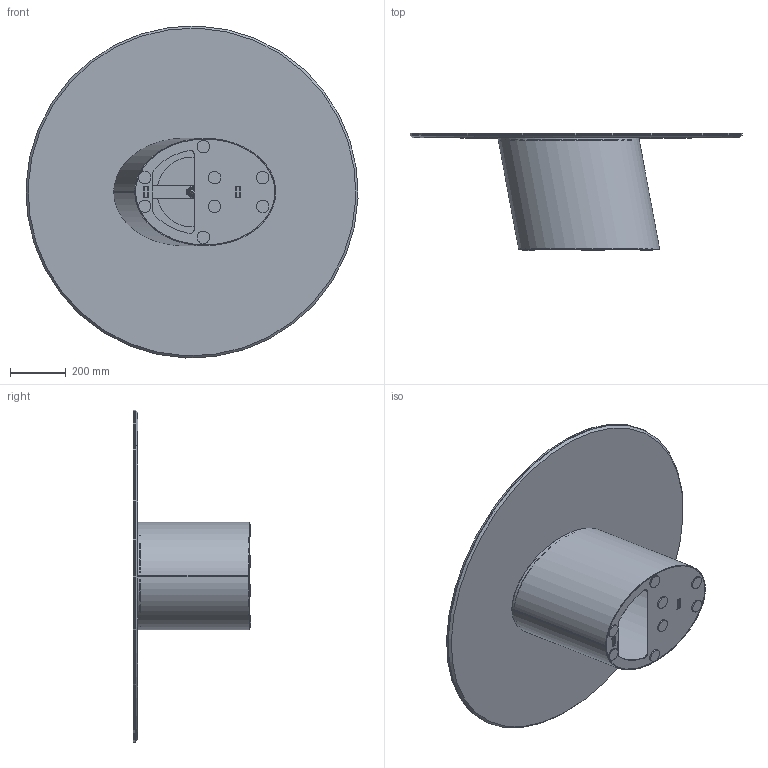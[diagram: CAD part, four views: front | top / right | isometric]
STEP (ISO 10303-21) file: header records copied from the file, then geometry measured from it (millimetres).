
FILE_DESCRIPTION (( 'STEP AP203' ), '1' );
FILE_NAME ('D214C.STEP', '2024-08-07T11:23:55', ( '' ), ( '' ), 'SwSTEP 2.0', 'SolidWorks 2022', '' );
FILE_SCHEMA (( 'CONFIG_CONTROL_DESIGN' ));
Length unit declared in the file: millimetre
Products named in the file (8): D214C; KXXCXX-00-Piani Rotondi in ceramica CON PIASTRA_K14P PIANO CERAMICA D.119cm CON M24; P0000003-00-STAFFA DI FISSAGGIO DIAMETRO 250_P0000003-250mm normale; K1XCMXX-00-Piani Rotondi in ceramica_D.1190; D2B000001-00-BASAMENTO DORADO LOW H420_Default<A macchina>; M8xXXmm_M8x16mm; P0000005-00-FILETTO M24 CON FORO H.20mm; Parte2^Dxxxx-00-DORADO LOW
Assembly tree (14 placements, depth 3):
  D214C
    D2B000001-00-BASAMENTO DORADO LOW H420_Default<A macchina>
    Parte2^Dxxxx-00-DORADO LOW  x8
    KXXCXX-00-Piani Rotondi in ceramica CON PIASTRA_K14P PIANO CERAMICA D.119cm CON M24
      K1XCMXX-00-Piani Rotondi in ceramica_D.1190
      P0000003-00-STAFFA DI FISSAGGIO DIAMETRO 250_P0000003-250mm normale
      M8xXXmm_M8x16mm
      P0000005-00-FILETTO M24 CON FORO H.20mm
Bounding box: 1189.16 x 421 x 1189.16 mm (x, y, z)
Volume: 20233409.5 mm3; surface area: 6279752.8 mm2
Topology: 20 solids, 20 shells, 246 faces, 593 edges, 386 vertices
Faces by surface type: cylinder 102, plane 102, cone 21, bspline 17, torus 4
Entity records: 12838 total; most frequent: CARTESIAN_POINT 6656, ORIENTED_EDGE 1098, DIRECTION 1038, EDGE_CURVE 549, AXIS2_PLACEMENT_3D 389, VERTEX_POINT 358, LINE 260, VECTOR 260
